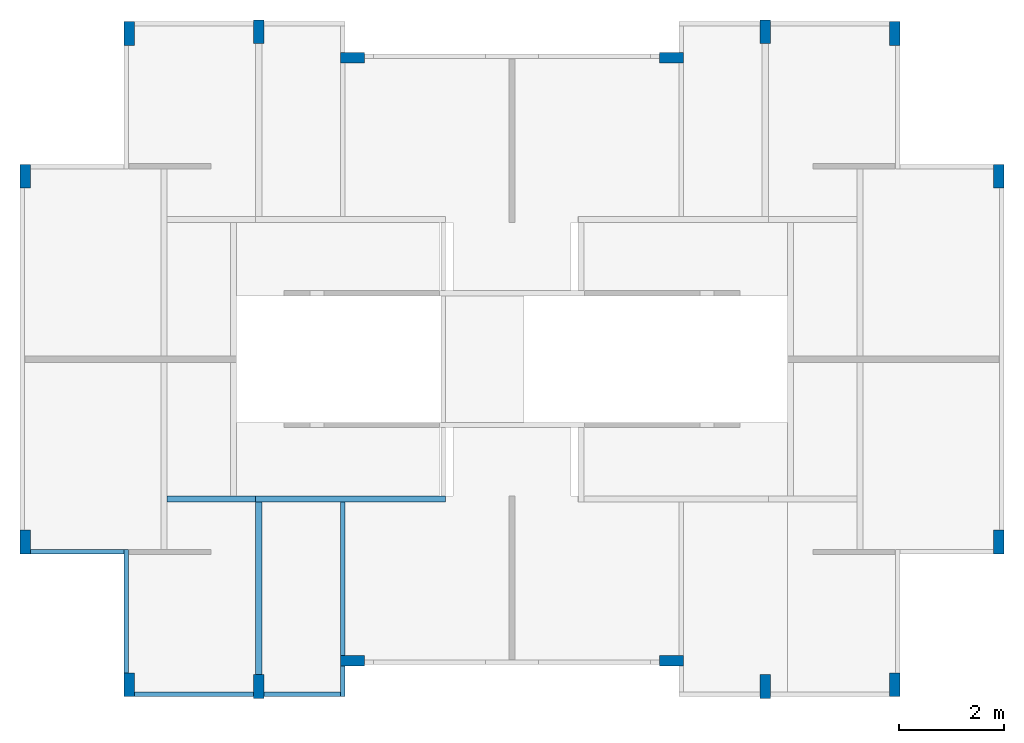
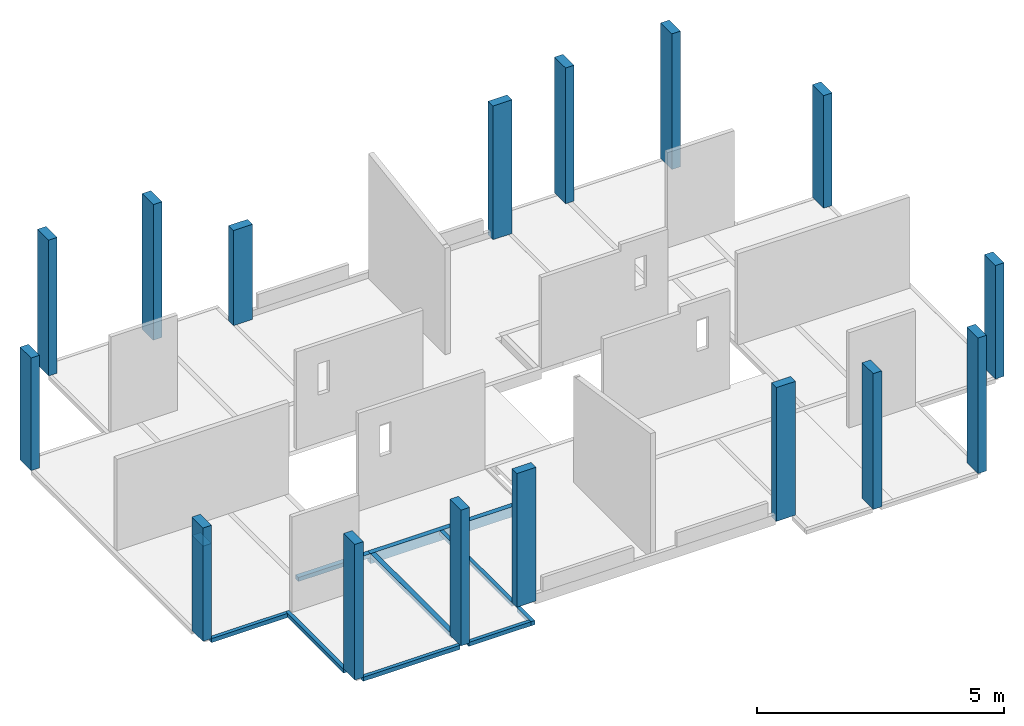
# One storey, part 1 of 5: 17 columns, 7 beams.
"""IFC4 building model written with IfcOpenShell, lengths in metres."""

from ifc_helpers import new_model, entity, si_unit, converted_unit, derived_unit, direction, frame, origin, place, context, subcontext, project, spatial, indexed_curve, outline, extrude, source, transform, mapped, material, type_object, type_shapes, element, save


model = new_model("IFC4")

# Units and contexts
model_context = context("Model", 3, precision=1e-05, world=origin(), true_north=direction((6.123031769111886e-17, 1.0)))
body_context = subcontext(model_context, "Body", "Model", "MODEL_VIEW")
ifc_project = project(units=[si_unit("LENGTHUNIT", "METRE"), si_unit("AREAUNIT", "SQUARE_METRE"), si_unit("VOLUMEUNIT", "CUBIC_METRE"), converted_unit("PLANEANGLEUNIT", "DEGREE", entity("IfcRatioMeasure", 0.017453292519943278), si_unit("PLANEANGLEUNIT", "RADIAN"), dimensions=[0, 0, 0, 0, 0, 0, 0]), si_unit("MASSUNIT", "GRAM", prefix="KILO"), derived_unit("MASSDENSITYUNIT", [(si_unit("MASSUNIT", "GRAM", prefix="KILO"), 1), (si_unit("LENGTHUNIT", "METRE"), -3)]), derived_unit("IONCONCENTRATIONUNIT", [(si_unit("MASSUNIT", "GRAM", prefix="KILO"), 1), (si_unit("LENGTHUNIT", "METRE"), -3)]), derived_unit("MOMENTOFINERTIAUNIT", [(si_unit("LENGTHUNIT", "METRE"), 4)]), si_unit("TIMEUNIT", "SECOND"), si_unit("FREQUENCYUNIT", "HERTZ"), si_unit("THERMODYNAMICTEMPERATUREUNIT", "DEGREE_CELSIUS"), derived_unit("THERMALTRANSMITTANCEUNIT", [(si_unit("MASSUNIT", "GRAM", prefix="KILO"), 1), (si_unit("THERMODYNAMICTEMPERATUREUNIT", "KELVIN"), -1), (si_unit("TIMEUNIT", "SECOND"), -3)]), derived_unit("THERMALCONDUCTANCEUNIT", [(si_unit("MASSUNIT", "GRAM", prefix="KILO"), 1), (si_unit("THERMODYNAMICTEMPERATUREUNIT", "KELVIN"), -1), (si_unit("TIMEUNIT", "SECOND"), -3), (si_unit("LENGTHUNIT", "METRE"), 1)]), derived_unit("VOLUMETRICFLOWRATEUNIT", [(si_unit("LENGTHUNIT", "METRE"), 3), (si_unit("TIMEUNIT", "SECOND"), -1)]), derived_unit("MASSFLOWRATEUNIT", [(si_unit("MASSUNIT", "GRAM", prefix="KILO"), 1), (si_unit("TIMEUNIT", "SECOND"), -1)]), derived_unit("ROTATIONALFREQUENCYUNIT", [(si_unit("TIMEUNIT", "SECOND"), -1)]), si_unit("ELECTRICCURRENTUNIT", "AMPERE"), si_unit("ELECTRICVOLTAGEUNIT", "VOLT"), si_unit("POWERUNIT", "WATT"), si_unit("FORCEUNIT", "NEWTON", prefix="KILO"), si_unit("ILLUMINANCEUNIT", "LUX"), si_unit("LUMINOUSFLUXUNIT", "LUMEN"), si_unit("LUMINOUSINTENSITYUNIT", "CANDELA"), derived_unit("USERDEFINED", [(si_unit("MASSUNIT", "GRAM", prefix="KILO"), -1), (si_unit("LENGTHUNIT", "METRE"), -2), (si_unit("TIMEUNIT", "SECOND"), 3), (si_unit("LUMINOUSFLUXUNIT", "LUMEN"), 1)]), derived_unit("USERDEFINED", [(si_unit("MASSUNIT", "GRAM", prefix="KILO"), 1), (si_unit("TIMEUNIT", "SECOND"), -3), (si_unit("LENGTHUNIT", "METRE"), 3), (si_unit("ELECTRICCURRENTUNIT", "AMPERE"), -2)]), derived_unit("SOUNDPOWERUNIT", [(si_unit("MASSUNIT", "GRAM", prefix="KILO"), 1), (si_unit("TIMEUNIT", "SECOND"), -3), (si_unit("LENGTHUNIT", "METRE"), 2)]), derived_unit("SOUNDPRESSUREUNIT", [(si_unit("MASSUNIT", "GRAM", prefix="KILO"), 1), (si_unit("LENGTHUNIT", "METRE"), -1), (si_unit("TIMEUNIT", "SECOND"), -2)]), derived_unit("LINEARVELOCITYUNIT", [(si_unit("LENGTHUNIT", "METRE"), 1), (si_unit("TIMEUNIT", "SECOND"), -1)]), si_unit("PRESSUREUNIT", "PASCAL"), derived_unit("USERDEFINED", [(si_unit("MASSUNIT", "GRAM", prefix="KILO"), 1), (si_unit("LENGTHUNIT", "METRE"), -2), (si_unit("TIMEUNIT", "SECOND"), -2)]), derived_unit("LINEARFORCEUNIT", [(si_unit("MASSUNIT", "GRAM", prefix="KILO"), 1), (si_unit("TIMEUNIT", "SECOND"), -2)]), derived_unit("PLANARFORCEUNIT", [(si_unit("MASSUNIT", "GRAM", prefix="KILO"), 1), (si_unit("LENGTHUNIT", "METRE"), -1), (si_unit("TIMEUNIT", "SECOND"), -2)]), derived_unit("SPECIFICHEATCAPACITYUNIT", [(si_unit("THERMODYNAMICTEMPERATUREUNIT", "KELVIN"), -1), (si_unit("LENGTHUNIT", "METRE"), 2), (si_unit("TIMEUNIT", "SECOND"), -2)]), derived_unit("HEATINGVALUEUNIT", [(si_unit("LENGTHUNIT", "METRE"), 2), (si_unit("TIMEUNIT", "SECOND"), -2)]), derived_unit("VAPORPERMEABILITYUNIT", [(si_unit("LENGTHUNIT", "METRE"), -1), (si_unit("TIMEUNIT", "SECOND"), 1)]), derived_unit("DYNAMICVISCOSITYUNIT", [(si_unit("MASSUNIT", "GRAM", prefix="KILO"), 1), (si_unit("TIMEUNIT", "SECOND"), -1), (si_unit("LENGTHUNIT", "METRE"), -1)]), derived_unit("THERMALEXPANSIONCOEFFICIENTUNIT", [(si_unit("THERMODYNAMICTEMPERATUREUNIT", "KELVIN"), -1)]), derived_unit("MODULUSOFELASTICITYUNIT", [(si_unit("MASSUNIT", "GRAM", prefix="KILO"), 1), (si_unit("LENGTHUNIT", "METRE"), -1), (si_unit("TIMEUNIT", "SECOND"), -2)]), derived_unit("ISOTHERMALMOISTURECAPACITYUNIT", [(si_unit("LENGTHUNIT", "METRE"), 3), (si_unit("MASSUNIT", "GRAM", prefix="KILO"), -1)]), derived_unit("MOISTUREDIFFUSIVITYUNIT", [(si_unit("TIMEUNIT", "SECOND"), -1), (si_unit("LENGTHUNIT", "METRE"), 2)])], contexts=[model_context])

# Site, building, storey
site_placement = place(None, origin())
site = spatial("IfcSite", under=ifc_project, at=site_placement, Name="Default", CompositionType="ELEMENT")
building_placement = place(site_placement, origin())
building = spatial("IfcBuilding", under=site, at=building_placement, Name="Las nubes", CompositionType="ELEMENT")
storey_placement = place(building_placement, frame((0.0, 0.0, 11.750000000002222)))
storey = spatial("IfcBuildingStorey", under=building, at=storey_placement, Name="PISO 6", CompositionType="ELEMENT", Elevation=11.750000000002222)

# Columns
ifc_material_1 = material(Name="Concrete, Cast-in-Place gray", Category="Materials")
column_type_1 = type_object("IfcColumnType", Name="M_Concrete-Rectangular-Column:300 x 450mm", PredefinedType="COLUMN", material=ifc_material_1)
shared_shape_1 = source(origin(), body_context, "Body", "SweptSolid", [
    extrude(outline(indexed_curve([(-0.22499999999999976, -0.09999999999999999), (0.22500000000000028, -0.09999999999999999), (0.22500000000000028, 0.09999999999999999), (-0.22499999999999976, 0.09999999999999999), (-0.22499999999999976, -0.09999999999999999)], self_intersect=False)), frame((0.07250000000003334, -2.950000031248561, 11.750000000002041), z_axis=(0.0, 0.0, 1.0), x_axis=(0.0, -1.0, 0.0)), (0.0, 0.0, 1.0), 2.7800000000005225),
])
type_shapes(column_type_1, [shared_shape_1])
column_1_placement = place(storey_placement, frame((0.0, 0.0, -11.750000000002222)))
element("IfcColumn", 1, at=column_1_placement, inside=storey, type_object=column_type_1, material=ifc_material_1, Name="M_Concrete-Rectangular-Column:300 x 450mm", ObjectType="M_Concrete-Rectangular-Column:300 x 450mm", PredefinedType="COLUMN", context=body_context, shape_type="MappedRepresentation", body=[
    mapped(shared_shape_1, transform((0.0, 0.0, 0.0), scale=1.0)),
])
column_type_2 = type_object("IfcColumnType", Name="M_Concrete-Rectangular-Column:300 x 450mm", PredefinedType="COLUMN", material=ifc_material_1)
shared_shape_2 = source(origin(), body_context, "Body", "SweptSolid", [
    extrude(outline(indexed_curve([(-0.22499999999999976, -0.09999999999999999), (0.22500000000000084, -0.09999999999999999), (0.22500000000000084, 0.09999999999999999), (-0.22499999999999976, 0.09999999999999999), (-0.22499999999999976, -0.09999999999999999)], self_intersect=False)), frame((0.07250000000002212, -9.899994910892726, 11.750000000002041), z_axis=(0.0, 0.0, 1.0), x_axis=(0.0, -1.0, 0.0)), (0.0, 0.0, 1.0), 2.350000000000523),
])
type_shapes(column_type_2, [shared_shape_2])
column_2_placement = place(storey_placement, frame((0.0, 0.0, -11.750000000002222)))
element("IfcColumn", 2, at=column_2_placement, inside=storey, type_object=column_type_2, material=ifc_material_1, Name="M_Concrete-Rectangular-Column:300 x 450mm", ObjectType="M_Concrete-Rectangular-Column:300 x 450mm", PredefinedType="COLUMN", context=body_context, shape_type="MappedRepresentation", body=[
    mapped(shared_shape_2, transform((0.0, 0.0, 0.0), scale=1.0)),
])
column_type_3 = type_object("IfcColumnType", Name="M_Concrete-Rectangular-Column:300 x 450mm", PredefinedType="COLUMN", material=ifc_material_1)
shared_shape_3 = source(origin(), body_context, "Body", "SweptSolid", [
    extrude(outline(indexed_curve([(-0.22499999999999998, -0.1), (0.225, -0.1), (0.225, 0.1), (-0.22499999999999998, 0.1), (-0.22499999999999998, -0.1)], self_intersect=False)), frame((2.0474999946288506, -0.23500002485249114, 11.750000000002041), z_axis=(0.0, 0.0, 1.0), x_axis=(0.0, -1.0, 0.0)), (0.0, 0.0, 1.0), 3.350000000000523),
])
type_shapes(column_type_3, [shared_shape_3])
column_3_placement = place(storey_placement, frame((0.0, 0.0, -11.750000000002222)))
element("IfcColumn", 3, at=column_3_placement, inside=storey, type_object=column_type_3, material=ifc_material_1, Name="M_Concrete-Rectangular-Column:300 x 450mm", ObjectType="M_Concrete-Rectangular-Column:300 x 450mm", PredefinedType="COLUMN", context=body_context, shape_type="MappedRepresentation", body=[
    mapped(shared_shape_3, transform((0.0, 0.0, 0.0), scale=1.0)),
])
column_type_4 = type_object("IfcColumnType", Name="M_Concrete-Rectangular-Column:300 x 450mm", PredefinedType="COLUMN", material=ifc_material_1)
shared_shape_4 = source(origin(), body_context, "Body", "SweptSolid", [
    extrude(outline(indexed_curve([(-0.22499999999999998, -0.1), (0.22499999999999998, -0.1), (0.22499999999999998, 0.1), (-0.22499999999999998, 0.1), (-0.22499999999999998, -0.1)], self_intersect=False)), frame((4.509999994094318, -0.20500002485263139, 11.750000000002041), z_axis=(0.0, 0.0, 1.0), x_axis=(0.0, -1.0, 0.0)), (0.0, 0.0, 1.0), 3.350000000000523),
])
type_shapes(column_type_4, [shared_shape_4])
column_4_placement = place(storey_placement, frame((0.0, 0.0, -11.750000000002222)))
element("IfcColumn", 4, at=column_4_placement, inside=storey, type_object=column_type_4, material=ifc_material_1, Name="M_Concrete-Rectangular-Column:300 x 450mm", ObjectType="M_Concrete-Rectangular-Column:300 x 450mm", PredefinedType="COLUMN", context=body_context, shape_type="MappedRepresentation", body=[
    mapped(shared_shape_4, transform((0.0, 0.0, 0.0), scale=1.0)),
])
column_type_5 = type_object("IfcColumnType", Name="M_Concrete-Rectangular-Column:300 x 450mm", PredefinedType="COLUMN", material=ifc_material_1)
shared_shape_5 = source(origin(), body_context, "Body", "SweptSolid", [
    extrude(outline(indexed_curve([(-0.1, -0.22500000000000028), (0.1, -0.2249999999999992), (0.1, 0.22500000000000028), (-0.1, 0.2249999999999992), (-0.1, -0.22500000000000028)], self_intersect=False)), frame((6.292499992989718, -0.6950000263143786, 11.750000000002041), z_axis=(0.0, 0.0, 1.0), x_axis=(0.0, -1.0, 0.0)), (0.0, 0.0, 1.0), 2.350000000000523),
])
type_shapes(column_type_5, [shared_shape_5])
column_5_placement = place(storey_placement, frame((0.0, 0.0, -11.750000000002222)))
element("IfcColumn", 5, at=column_5_placement, inside=storey, type_object=column_type_5, material=ifc_material_1, Name="M_Concrete-Rectangular-Column:300 x 450mm", ObjectType="M_Concrete-Rectangular-Column:300 x 450mm", PredefinedType="COLUMN", context=body_context, shape_type="MappedRepresentation", body=[
    mapped(shared_shape_5, transform((0.0, 0.0, 0.0), scale=1.0)),
])
column_type_6 = type_object("IfcColumnType", Name="M_Concrete-Rectangular-Column:300 x 450mm", PredefinedType="COLUMN", material=ifc_material_1)
shared_shape_6 = source(origin(), body_context, "Body", "SweptSolid", [
    extrude(outline(indexed_curve([(-0.22499999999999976, -0.10000000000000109), (0.22500000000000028, -0.10000000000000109), (0.22500000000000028, 0.09999999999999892), (-0.22499999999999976, 0.09999999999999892), (-0.22499999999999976, -0.10000000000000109)], self_intersect=False)), frame((18.572500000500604, -2.950000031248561, 11.750000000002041), z_axis=(0.0, 0.0, 1.0), x_axis=(0.0, -1.0, 0.0)), (0.0, 0.0, 1.0), 2.7800000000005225),
])
type_shapes(column_type_6, [shared_shape_6])
column_6_placement = place(storey_placement, frame((0.0, 0.0, -11.750000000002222)))
element("IfcColumn", 6, at=column_6_placement, inside=storey, type_object=column_type_6, material=ifc_material_1, Name="M_Concrete-Rectangular-Column:300 x 450mm", ObjectType="M_Concrete-Rectangular-Column:300 x 450mm", PredefinedType="COLUMN", context=body_context, shape_type="MappedRepresentation", body=[
    mapped(shared_shape_6, transform((0.0, 0.0, 0.0), scale=1.0)),
])
column_type_7 = type_object("IfcColumnType", Name="M_Concrete-Rectangular-Column:300 x 450mm", PredefinedType="COLUMN", material=ifc_material_1)
shared_shape_7 = source(origin(), body_context, "Body", "SweptSolid", [
    extrude(outline(indexed_curve([(-0.22499999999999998, -0.09999999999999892), (0.225, -0.09999999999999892), (0.225, 0.10000000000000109), (-0.22499999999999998, 0.10000000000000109), (-0.22499999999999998, -0.09999999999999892)], self_intersect=False)), frame((16.597500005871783, -0.23500002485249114, 11.750000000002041), z_axis=(0.0, 0.0, 1.0), x_axis=(0.0, -1.0, 0.0)), (0.0, 0.0, 1.0), 3.350000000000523),
])
type_shapes(column_type_7, [shared_shape_7])
column_7_placement = place(storey_placement, frame((0.0, 0.0, -11.750000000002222)))
element("IfcColumn", 7, at=column_7_placement, inside=storey, type_object=column_type_7, material=ifc_material_1, Name="M_Concrete-Rectangular-Column:300 x 450mm", ObjectType="M_Concrete-Rectangular-Column:300 x 450mm", PredefinedType="COLUMN", context=body_context, shape_type="MappedRepresentation", body=[
    mapped(shared_shape_7, transform((0.0, 0.0, 0.0), scale=1.0)),
])
column_type_8 = type_object("IfcColumnType", Name="M_Concrete-Rectangular-Column:300 x 450mm", PredefinedType="COLUMN", material=ifc_material_1)
shared_shape_8 = source(origin(), body_context, "Body", "SweptSolid", [
    extrude(outline(indexed_curve([(-0.22499999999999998, -0.09999999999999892), (0.22499999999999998, -0.09999999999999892), (0.22499999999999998, 0.10000000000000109), (-0.22499999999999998, 0.10000000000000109), (-0.22499999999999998, -0.09999999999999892)], self_intersect=False)), frame((14.135000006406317, -0.20500002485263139, 11.750000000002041), z_axis=(0.0, 0.0, 1.0), x_axis=(0.0, -1.0, 0.0)), (0.0, 0.0, 1.0), 3.350000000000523),
])
type_shapes(column_type_8, [shared_shape_8])
column_8_placement = place(storey_placement, frame((0.0, 0.0, -11.750000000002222)))
element("IfcColumn", 8, at=column_8_placement, inside=storey, type_object=column_type_8, material=ifc_material_1, Name="M_Concrete-Rectangular-Column:300 x 450mm", ObjectType="M_Concrete-Rectangular-Column:300 x 450mm", PredefinedType="COLUMN", context=body_context, shape_type="MappedRepresentation", body=[
    mapped(shared_shape_8, transform((0.0, 0.0, 0.0), scale=1.0)),
])
column_type_9 = type_object("IfcColumnType", Name="M_Concrete-Rectangular-Column:300 x 450mm", PredefinedType="COLUMN", material=ifc_material_1)
shared_shape_9 = source(origin(), body_context, "Body", "SweptSolid", [
    extrude(outline(indexed_curve([(-0.09999999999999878, -0.22500000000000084), (0.10000000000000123, -0.22499999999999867), (0.09999999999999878, 0.22500000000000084), (-0.10000000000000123, 0.22499999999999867), (-0.09999999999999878, -0.22500000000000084)], self_intersect=False)), frame((12.352500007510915, -0.6950000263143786, 11.750000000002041), z_axis=(0.0, 0.0, 1.0), x_axis=(0.0, -1.0, 0.0)), (0.0, 0.0, 1.0), 3.3000000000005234),
])
type_shapes(column_type_9, [shared_shape_9])
column_9_placement = place(storey_placement, frame((0.0, 0.0, -11.750000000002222)))
element("IfcColumn", 9, at=column_9_placement, inside=storey, type_object=column_type_9, material=ifc_material_1, Name="M_Concrete-Rectangular-Column:300 x 450mm", ObjectType="M_Concrete-Rectangular-Column:300 x 450mm", PredefinedType="COLUMN", context=body_context, shape_type="MappedRepresentation", body=[
    mapped(shared_shape_9, transform((0.0, 0.0, 0.0), scale=1.0)),
])
column_type_10 = type_object("IfcColumnType", Name="M_Concrete-Rectangular-Column:300 x 450mm", PredefinedType="COLUMN", material=ifc_material_1)
shared_shape_10 = source(origin(), body_context, "Body", "SweptSolid", [
    extrude(outline(indexed_curve([(-0.22500000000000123, -0.09999999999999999), (0.22499999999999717, -0.09999999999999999), (0.22499999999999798, 0.09999999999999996), (-0.2250000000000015, 0.09999999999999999), (-0.22500000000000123, -0.09999999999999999)], self_intersect=False)), frame((0.0725000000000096, -9.900000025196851, 11.750000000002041), z_axis=(0.0, 0.0, 1.0), x_axis=(0.0, -1.0, 0.0)), (0.0, 0.0, 1.0), 2.800000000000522),
])
type_shapes(column_type_10, [shared_shape_10])
column_10_placement = place(storey_placement, frame((0.0, 0.0, -11.750000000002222)))
element("IfcColumn", 10, at=column_10_placement, inside=storey, type_object=column_type_10, material=ifc_material_1, Name="M_Concrete-Rectangular-Column:300 x 450mm", ObjectType="M_Concrete-Rectangular-Column:300 x 450mm", PredefinedType="COLUMN", context=body_context, shape_type="MappedRepresentation", body=[
    mapped(shared_shape_10, transform((0.0, 0.0, 0.0), scale=1.0)),
])
column_type_11 = type_object("IfcColumnType", Name="M_Concrete-Rectangular-Column:300 x 450mm", PredefinedType="COLUMN", material=ifc_material_1)
shared_shape_11 = source(origin(), body_context, "Body", "SweptSolid", [
    extrude(outline(indexed_curve([(-0.22500000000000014, -0.09999999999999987), (0.22499999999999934, -0.10000000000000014), (0.22499999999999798, 0.10000000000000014), (-0.22499999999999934, 0.10000000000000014), (-0.22500000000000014, -0.09999999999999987)], self_intersect=False)), frame((2.047499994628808, -12.615000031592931, 11.750000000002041), z_axis=(0.0, 0.0, 1.0), x_axis=(0.0, -1.0, 0.0)), (0.0, 0.0, 1.0), 3.350000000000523),
])
type_shapes(column_type_11, [shared_shape_11])
column_11_placement = place(storey_placement, frame((0.0, 0.0, -11.750000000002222)))
element("IfcColumn", 11, at=column_11_placement, inside=storey, type_object=column_type_11, material=ifc_material_1, Name="M_Concrete-Rectangular-Column:300 x 450mm", ObjectType="M_Concrete-Rectangular-Column:300 x 450mm", PredefinedType="COLUMN", context=body_context, shape_type="MappedRepresentation", body=[
    mapped(shared_shape_11, transform((0.0, 0.0, 0.0), scale=1.0)),
])
column_type_12 = type_object("IfcColumnType", Name="M_Concrete-Rectangular-Column:300 x 450mm", PredefinedType="COLUMN", material=ifc_material_1)
shared_shape_12 = source(origin(), body_context, "Body", "SweptSolid", [
    extrude(outline(indexed_curve([(-0.22500000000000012, -0.1), (0.22499999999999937, -0.1), (0.22499999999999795, 0.1), (-0.22499999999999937, 0.1), (-0.22500000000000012, -0.1)], self_intersect=False)), frame((4.509999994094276, -12.64500003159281, 11.750000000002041), z_axis=(0.0, 0.0, 1.0), x_axis=(0.0, -1.0, 0.0)), (0.0, 0.0, 1.0), 3.350000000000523),
])
type_shapes(column_type_12, [shared_shape_12])
column_12_placement = place(storey_placement, frame((0.0, 0.0, -11.750000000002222)))
element("IfcColumn", 12, at=column_12_placement, inside=storey, type_object=column_type_12, material=ifc_material_1, Name="M_Concrete-Rectangular-Column:300 x 450mm", ObjectType="M_Concrete-Rectangular-Column:300 x 450mm", PredefinedType="COLUMN", context=body_context, shape_type="MappedRepresentation", body=[
    mapped(shared_shape_12, transform((0.0, 0.0, 0.0), scale=1.0)),
])
column_type_13 = type_object("IfcColumnType", Name="M_Concrete-Rectangular-Column:300 x 450mm", PredefinedType="COLUMN", material=ifc_material_1)
shared_shape_13 = source(origin(), body_context, "Body", "SweptSolid", [
    extrude(outline(indexed_curve([(-0.10000000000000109, -0.22499999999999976), (0.09999999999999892, -0.22499999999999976), (0.09999999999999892, 0.22499999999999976), (-0.10000000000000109, 0.22499999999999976), (-0.10000000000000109, -0.22499999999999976)], self_intersect=False)), frame((6.292499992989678, -12.155000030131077, 11.750000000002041), z_axis=(0.0, 0.0, 1.0), x_axis=(0.0, -1.0, 0.0)), (0.0, 0.0, 1.0), 3.3000000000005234),
])
type_shapes(column_type_13, [shared_shape_13])
column_13_placement = place(storey_placement, frame((0.0, 0.0, -11.750000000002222)))
element("IfcColumn", 13, at=column_13_placement, inside=storey, type_object=column_type_13, material=ifc_material_1, Name="M_Concrete-Rectangular-Column:300 x 450mm", ObjectType="M_Concrete-Rectangular-Column:300 x 450mm", PredefinedType="COLUMN", context=body_context, shape_type="MappedRepresentation", body=[
    mapped(shared_shape_13, transform((0.0, 0.0, 0.0), scale=1.0)),
])
column_type_14 = type_object("IfcColumnType", Name="M_Concrete-Rectangular-Column:300 x 450mm", PredefinedType="COLUMN", material=ifc_material_1)
shared_shape_14 = source(origin(), body_context, "Body", "SweptSolid", [
    extrude(outline(indexed_curve([(-0.22500000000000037, -0.1), (0.2250000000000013, -0.10000000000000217), (0.22500000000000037, 0.09999999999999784), (-0.22500000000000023, 0.1), (-0.22500000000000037, -0.1)], self_intersect=False)), frame((18.57250000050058, -9.900000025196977, 11.750000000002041), z_axis=(0.0, 0.0, 1.0), x_axis=(0.0, -1.0, 0.0)), (0.0, 0.0, 1.0), 2.800000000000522),
])
type_shapes(column_type_14, [shared_shape_14])
column_14_placement = place(storey_placement, frame((0.0, 0.0, -11.750000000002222)))
element("IfcColumn", 14, at=column_14_placement, inside=storey, type_object=column_type_14, material=ifc_material_1, Name="M_Concrete-Rectangular-Column:300 x 450mm", ObjectType="M_Concrete-Rectangular-Column:300 x 450mm", PredefinedType="COLUMN", context=body_context, shape_type="MappedRepresentation", body=[
    mapped(shared_shape_14, transform((0.0, 0.0, 0.0), scale=1.0)),
])
column_type_15 = type_object("IfcColumnType", Name="M_Concrete-Rectangular-Column:300 x 450mm", PredefinedType="COLUMN", material=ifc_material_1)
shared_shape_15 = source(origin(), body_context, "Body", "SweptSolid", [
    extrude(outline(indexed_curve([(-0.22500000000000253, -0.1), (0.2250000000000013, -0.10000000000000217), (0.22500000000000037, 0.09999999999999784), (-0.2250000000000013, 0.1), (-0.22500000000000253, -0.1)], self_intersect=False)), frame((16.597500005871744, -12.615000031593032, 11.750000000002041), z_axis=(0.0, 0.0, 1.0), x_axis=(0.0, -1.0, 0.0)), (0.0, 0.0, 1.0), 3.350000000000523),
])
type_shapes(column_type_15, [shared_shape_15])
column_15_placement = place(storey_placement, frame((0.0, 0.0, -11.750000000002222)))
element("IfcColumn", 15, at=column_15_placement, inside=storey, type_object=column_type_15, material=ifc_material_1, Name="M_Concrete-Rectangular-Column:300 x 450mm", ObjectType="M_Concrete-Rectangular-Column:300 x 450mm", PredefinedType="COLUMN", context=body_context, shape_type="MappedRepresentation", body=[
    mapped(shared_shape_15, transform((0.0, 0.0, 0.0), scale=1.0)),
])
column_type_16 = type_object("IfcColumnType", Name="M_Concrete-Rectangular-Column:300 x 450mm", PredefinedType="COLUMN", material=ifc_material_1)
shared_shape_16 = source(origin(), body_context, "Body", "SweptSolid", [
    extrude(outline(indexed_curve([(-0.22500000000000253, -0.1), (0.2250000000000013, -0.10000000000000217), (0.22500000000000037, 0.09999999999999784), (-0.2250000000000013, 0.1), (-0.22500000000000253, -0.1)], self_intersect=False)), frame((14.135000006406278, -12.645000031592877, 11.750000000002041), z_axis=(0.0, 0.0, 1.0), x_axis=(0.0, -1.0, 0.0)), (0.0, 0.0, 1.0), 3.350000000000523),
])
type_shapes(column_type_16, [shared_shape_16])
column_16_placement = place(storey_placement, frame((0.0, 0.0, -11.750000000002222)))
element("IfcColumn", 16, at=column_16_placement, inside=storey, type_object=column_type_16, material=ifc_material_1, Name="M_Concrete-Rectangular-Column:300 x 450mm", ObjectType="M_Concrete-Rectangular-Column:300 x 450mm", PredefinedType="COLUMN", context=body_context, shape_type="MappedRepresentation", body=[
    mapped(shared_shape_16, transform((0.0, 0.0, 0.0), scale=1.0)),
])
column_type_17 = type_object("IfcColumnType", Name="M_Concrete-Rectangular-Column:300 x 450mm", PredefinedType="COLUMN", material=ifc_material_1)
shared_shape_17 = source(origin(), body_context, "Body", "SweptSolid", [
    extrude(outline(indexed_curve([(-0.10000000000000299, -0.2249999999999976), (0.0999999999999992, -0.22500000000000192), (0.09999999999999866, 0.22499999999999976), (-0.10000000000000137, 0.22500000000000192), (-0.10000000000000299, -0.2249999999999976)], self_intersect=False)), frame((12.352500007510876, -12.155000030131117, 11.750000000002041), z_axis=(0.0, 0.0, 1.0), x_axis=(0.0, -1.0, 0.0)), (0.0, 0.0, 1.0), 3.3000000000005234),
])
type_shapes(column_type_17, [shared_shape_17])
column_17_placement = place(storey_placement, frame((0.0, 0.0, -11.750000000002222)))
element("IfcColumn", 17, at=column_17_placement, inside=storey, type_object=column_type_17, material=ifc_material_1, Name="M_Concrete-Rectangular-Column:300 x 450mm", ObjectType="M_Concrete-Rectangular-Column:300 x 450mm", PredefinedType="COLUMN", context=body_context, shape_type="MappedRepresentation", body=[
    mapped(shared_shape_17, transform((0.0, 0.0, 0.0), scale=1.0)),
])

# Beams
ifc_material_2 = material(Name="Concrete, Cast In Situ", Category="Materials")
beam_type_1 = type_object("IfcBeamType", Name="M_Concrete-Rectangular Beam:(0.085x0.10)", PredefinedType="BEAM", material=ifc_material_2)
shared_shape_18 = source(origin(), body_context, "Body", "SweptSolid", [
    extrude(outline(indexed_curve([(-0.04250000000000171, -0.050000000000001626), (0.04250000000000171, -0.050000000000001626), (0.04250000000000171, 0.04999999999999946), (-0.04250000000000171, 0.04999999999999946), (-0.04250000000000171, -0.050000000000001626)], self_intersect=False)), frame((1.9899999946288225, -12.390000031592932, 11.700000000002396), z_axis=(0.0, 1.0, 0.0), x_axis=(-1.0, 0.0, 0.0)), (0.0, 0.0, 1.0), 2.3500051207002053),
])
type_shapes(beam_type_1, [shared_shape_18])
beam_1_placement = place(storey_placement, frame((0.0, 0.0, -11.750000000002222)))
element("IfcBeam", 18, at=beam_1_placement, inside=storey, type_object=beam_type_1, material=ifc_material_2, Name="M_Concrete-Rectangular Beam:(0.085x0.10)", ObjectType="M_Concrete-Rectangular Beam:(0.085x0.10)", PredefinedType="BEAM", context=body_context, shape_type="MappedRepresentation", body=[
    mapped(shared_shape_18, transform((0.0, 0.0, 0.0), scale=1.0)),
])
beam_type_2 = type_object("IfcBeamType", Name="M_Concrete-Rectangular Beam:(0.085x0.10)", PredefinedType="BEAM", material=ifc_material_2)
shared_shape_19 = source(origin(), body_context, "Body", "SweptSolid", [
    extrude(outline(indexed_curve([(-0.05000000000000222, -0.04249999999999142), (0.04999999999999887, -0.042500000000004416), (0.05000000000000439, 0.04249999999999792), (-0.04999999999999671, 0.042500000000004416), (-0.05000000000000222, -0.04249999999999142)], self_intersect=False)), frame((1.9474999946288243, -10.082494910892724, 11.700000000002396), z_axis=(-1.0, 0.0, 0.0), x_axis=(0.0, 0.0, -1.0)), (0.0, 0.0, 1.0), 1.7749999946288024),
])
type_shapes(beam_type_2, [shared_shape_19])
beam_2_placement = place(storey_placement, frame((0.0, 0.0, -11.750000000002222)))
element("IfcBeam", 19, at=beam_2_placement, inside=storey, type_object=beam_type_2, material=ifc_material_2, Name="M_Concrete-Rectangular Beam:(0.085x0.10)", ObjectType="M_Concrete-Rectangular Beam:(0.085x0.10)", PredefinedType="BEAM", context=body_context, shape_type="MappedRepresentation", body=[
    mapped(shared_shape_19, transform((0.0, 0.0, 0.0), scale=1.0)),
])
beam_type_3 = type_object("IfcBeamType", Name="M_Concrete-Rectangular Beam:(0.115x0.25)", PredefinedType="BEAM", material=ifc_material_2)
shared_shape_20 = source(origin(), body_context, "Body", "SweptSolid", [
    extrude(outline(indexed_curve([(-0.12500000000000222, -0.05749999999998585), (0.12499999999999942, -0.057500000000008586), (0.12500000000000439, 0.05749999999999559), (-0.12499999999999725, 0.05750000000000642), (-0.12500000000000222, -0.05749999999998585)], self_intersect=False)), frame((8.062500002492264, -9.082500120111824, 11.625000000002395), z_axis=(-1.0, 0.0, 0.0), x_axis=(0.0, 0.0, -1.0)), (0.0, 0.0, 1.0), 3.610000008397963),
])
type_shapes(beam_type_3, [shared_shape_20])
beam_3_placement = place(storey_placement, frame((0.0, 0.0, -11.750000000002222)))
element("IfcBeam", 20, at=beam_3_placement, inside=storey, type_object=beam_type_3, material=ifc_material_2, Name="M_Concrete-Rectangular Beam:(0.115x0.25)", ObjectType="M_Concrete-Rectangular Beam:(0.115x0.25)", PredefinedType="BEAM", context=body_context, shape_type="MappedRepresentation", body=[
    mapped(shared_shape_20, transform((0.0, 0.0, 0.0), scale=1.0)),
])
beam_type_4 = type_object("IfcBeamType", Name="M_Concrete-Rectangular Beam:(0.115x0.10)", PredefinedType="BEAM", material=ifc_material_2)
shared_shape_21 = source(origin(), body_context, "Body", "SweptSolid", [
    extrude(outline(indexed_curve([(-0.05750000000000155, -0.050000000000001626), (0.05750000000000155, -0.050000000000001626), (0.05750000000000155, 0.04999999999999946), (-0.05750000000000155, 0.04999999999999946), (-0.05750000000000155, -0.050000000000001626)], self_intersect=False)), frame((4.509999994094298, -12.42000003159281, 11.700000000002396), z_axis=(0.0, 1.0, 0.0), x_axis=(-1.0, 0.0, 0.0)), (0.0, 0.0, 1.0), 3.2799999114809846),
])
type_shapes(beam_type_4, [shared_shape_21])
beam_4_placement = place(storey_placement, frame((0.0, 0.0, -11.750000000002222)))
element("IfcBeam", 21, at=beam_4_placement, inside=storey, type_object=beam_type_4, material=ifc_material_2, Name="M_Concrete-Rectangular Beam:(0.115x0.10)", ObjectType="M_Concrete-Rectangular Beam:(0.115x0.10)", PredefinedType="BEAM", context=body_context, shape_type="MappedRepresentation", body=[
    mapped(shared_shape_21, transform((0.0, 0.0, 0.0), scale=1.0)),
])
beam_type_5 = type_object("IfcBeamType", Name="M_Concrete-Rectangular Beam:(0.115x0.10)", PredefinedType="BEAM", material=ifc_material_2)
shared_shape_22 = source(origin(), body_context, "Body", "SweptSolid", [
    extrude(outline(indexed_curve([(-0.05000000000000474, -0.057499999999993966), (0.049999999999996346, -0.05750000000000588), (0.05000000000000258, 0.0574999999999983), (-0.04999999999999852, 0.057500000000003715), (-0.05000000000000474, -0.057499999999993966)], self_intersect=False)), frame((4.4524999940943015, -9.082499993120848, 11.700000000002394), z_axis=(-1.0, 0.0, 0.0), x_axis=(0.0, 0.0, -1.0)), (0.0, 0.0, 1.0), 1.6849989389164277),
])
type_shapes(beam_type_5, [shared_shape_22])
beam_5_placement = place(storey_placement, frame((0.0, 0.0, -11.750000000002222)))
element("IfcBeam", 22, at=beam_5_placement, inside=storey, type_object=beam_type_5, material=ifc_material_2, Name="M_Concrete-Rectangular Beam:(0.115x0.10)", ObjectType="M_Concrete-Rectangular Beam:(0.115x0.10)", PredefinedType="BEAM", context=body_context, shape_type="MappedRepresentation", body=[
    mapped(shared_shape_22, transform((0.0, 0.0, 0.0), scale=1.0)),
])
beam_type_6 = type_object("IfcBeamType", Name="M_Concrete-Rectangular Beam:(0.085x0.10)", PredefinedType="BEAM", material=ifc_material_2)
shared_shape_23 = source(origin(), body_context, "Body", "SweptSolid", [
    extrude(outline(indexed_curve([(-0.04250000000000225, -0.050000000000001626), (0.04250000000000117, -0.050000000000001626), (0.04250000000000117, 0.04999999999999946), (-0.04250000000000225, 0.04999999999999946), (-0.04250000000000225, -0.050000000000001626)], self_intersect=False)), frame((6.1099999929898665, -12.055000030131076, 11.700000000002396), z_axis=(0.0, 1.0, 0.0), x_axis=(-1.0, 0.0, 0.0)), (0.0, 0.0, 1.0), 2.9149999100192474),
    extrude(outline(indexed_curve([(-0.04250000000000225, -0.050000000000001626), (0.04250000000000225, -0.050000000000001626), (0.04250000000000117, 0.04999999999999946), (-0.04250000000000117, 0.04999999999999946), (-0.04250000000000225, -0.050000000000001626)], self_intersect=False)), frame((6.109999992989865, -12.840000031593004, 11.700000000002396), z_axis=(0.0, 1.0, 0.0), x_axis=(-1.0, 0.0, 0.0)), (0.0, 0.0, 1.0), 0.585000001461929),
])
type_shapes(beam_type_6, [shared_shape_23])
beam_6_placement = place(storey_placement, frame((0.0, 0.0, -11.750000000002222)))
element("IfcBeam", 23, at=beam_6_placement, inside=storey, type_object=beam_type_6, material=ifc_material_2, Name="M_Concrete-Rectangular Beam:(0.085x0.10)", ObjectType="M_Concrete-Rectangular Beam:(0.085x0.10)", PredefinedType="BEAM", context=body_context, shape_type="MappedRepresentation", body=[
    mapped(shared_shape_23, transform((0.0, 0.0, 0.0), scale=1.0)),
])
beam_type_7 = type_object("IfcBeamType", Name="M_Concrete-Rectangular Beam:(0.085x0.10)", PredefinedType="BEAM", material=ifc_material_2)
shared_shape_24 = source(origin(), body_context, "Body", "SweptSolid", [
    extrude(outline(indexed_curve([(-0.05000000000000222, -0.04249999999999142), (0.04999999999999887, -0.042500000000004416), (0.05000000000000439, 0.04249999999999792), (-0.04999999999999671, 0.042500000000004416), (-0.05000000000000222, -0.04249999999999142)], self_intersect=False)), frame((4.4099999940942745, -12.797500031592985, 11.700000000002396), z_axis=(-1.0, 0.0, 0.0), x_axis=(0.0, 0.0, -1.0)), (0.0, 0.0, 1.0), 2.262499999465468),
    extrude(outline(indexed_curve([(-0.05000000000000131, -0.04249999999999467), (0.04999999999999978, -0.042500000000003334), (0.05000000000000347, 0.042499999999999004), (-0.049999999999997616, 0.042500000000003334), (-0.05000000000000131, -0.04249999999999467)], self_intersect=False)), frame((6.06749999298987, -12.797500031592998, 11.700000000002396), z_axis=(-1.0, 0.0, 0.0), x_axis=(0.0, 0.0, -1.0)), (0.0, 0.0, 1.0), 1.4574999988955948),
])
type_shapes(beam_type_7, [shared_shape_24])
beam_7_placement = place(storey_placement, frame((0.0, 0.0, -11.750000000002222)))
element("IfcBeam", 24, at=beam_7_placement, inside=storey, type_object=beam_type_7, material=ifc_material_2, Name="M_Concrete-Rectangular Beam:(0.085x0.10)", ObjectType="M_Concrete-Rectangular Beam:(0.085x0.10)", PredefinedType="BEAM", context=body_context, shape_type="MappedRepresentation", body=[
    mapped(shared_shape_24, transform((0.0, 0.0, 0.0), scale=1.0)),
])

save(model, "model.ifc")
